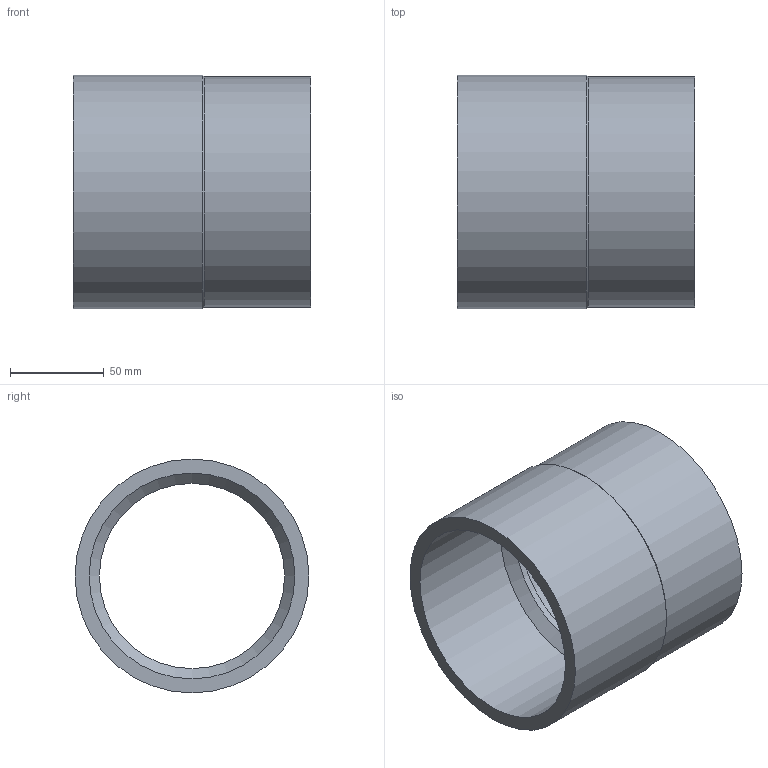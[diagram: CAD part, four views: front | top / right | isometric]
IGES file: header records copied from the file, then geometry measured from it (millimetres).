
Global section: file name: 050200125110.ipt; native system: Autodesk Inventor 2015; preprocessor: unknown; author: KIM; date: 20171207.164236; units: millimetre
Bounding box: 127 x 125 x 125 mm (x, y, z)
Volume: 340575.3 mm3; surface area: 101046 mm2
Topology: 1 solids, 1 shells, 10 faces, 23 edges, 16 vertices
Faces by surface type: revolution 4, plane 3, cylinder 2, cone 1
Full cylindrical faces by diameter (mm): 123 x1, 125 x1
